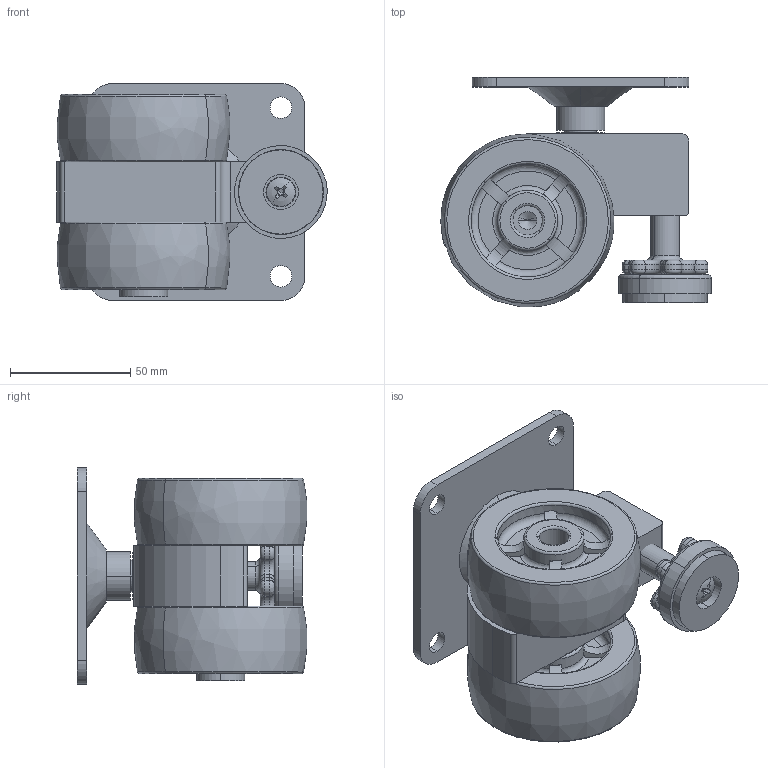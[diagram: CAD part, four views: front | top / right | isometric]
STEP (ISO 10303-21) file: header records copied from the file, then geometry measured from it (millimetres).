
FILE_DESCRIPTION (( 'STEP AP203' ), '1' );
FILE_NAME ('C03-1-800F.STEP', '2024-08-15T09:25:01', ( 'daohangxitong.com' ), ( 'daohangxitong.com' ), 'SwSTEP 2.0', 'SolidWorks 2020', '' );
FILE_SCHEMA (( 'CONFIG_CONTROL_DESIGN' ));
Length unit declared in the file: millimetre
Products named in the file (1): C03-1-800F
Bounding box: 112.22 x 95.27 x 90 mm (x, y, z)
Volume: 320739.5 mm3; surface area: 91164.3 mm2
Topology: 11 solids, 11 shells, 450 faces, 1099 edges, 680 vertices
Faces by surface type: cylinder 147, plane 143, torus 122, cone 22, bspline 14, sphere 2
Entity records: 15407 total; most frequent: CARTESIAN_POINT 4669, DIRECTION 2383, ORIENTED_EDGE 2174, EDGE_CURVE 1087, AXIS2_PLACEMENT_3D 1013, VERTEX_POINT 680, CIRCLE 576, EDGE_LOOP 501
